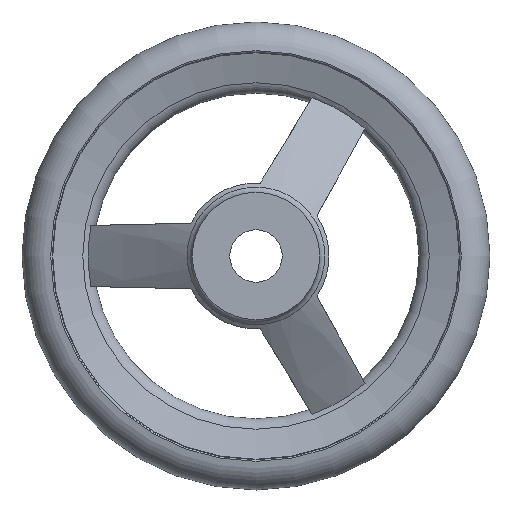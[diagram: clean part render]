
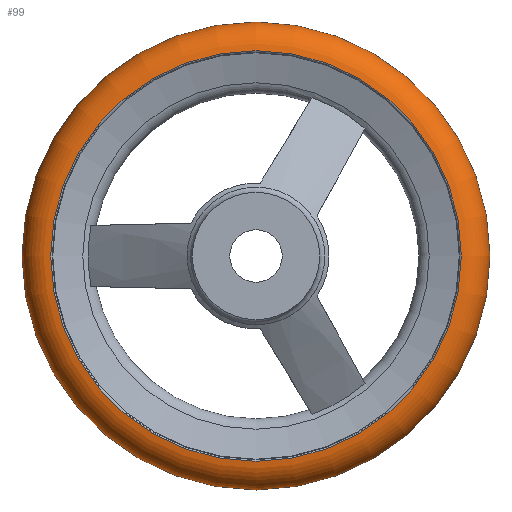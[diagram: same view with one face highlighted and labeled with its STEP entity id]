
A CAD part, left-side view. The second image highlights one B-rep face of the part: STEP entity #99.
In plain terms, the highlighted toroidal (fillet/blend) face has major radius 54.5 mm and minor radius 8 mm.
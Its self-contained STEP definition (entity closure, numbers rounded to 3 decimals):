
#99 = ADVANCED_FACE( '', ( #170, #171, #172 ), #173, .T. );
#170 = FACE_BOUND( '', #255, .T. );
#171 = FACE_OUTER_BOUND( '', #256, .T. );
#172 = FACE_OUTER_BOUND( '', #257, .T. );
#173 = TOROIDAL_SURFACE( '', #258, 54.5, 8. );
#255 = VERTEX_LOOP( '', #461 );
#256 = EDGE_LOOP( '', ( #462 ) );
#257 = EDGE_LOOP( '', ( #463 ) );
#258 = AXIS2_PLACEMENT_3D( '', #464, #465, #466 );
#461 = VERTEX_POINT( '', #555 );
#462 = ORIENTED_EDGE( '', *, *, #556, .T. );
#463 = ORIENTED_EDGE( '', *, *, #544, .F. );
#464 = CARTESIAN_POINT( '', ( 36., 0., 0. ) );
#465 = DIRECTION( '', ( -1., 0., 0. ) );
#466 = DIRECTION( '', ( 0., -1., 0. ) );
#544 = EDGE_CURVE( '', #644, #644, #645, .T. );
#555 = CARTESIAN_POINT( '', ( 36., -62.5, 0. ) );
#556 = EDGE_CURVE( '', #662, #662, #663, .T. );
#644 = VERTEX_POINT( '', #981 );
#645 = CIRCLE( '', #982, 54.833 );
#662 = VERTEX_POINT( '', #1019 );
#663 = CIRCLE( '', #1020, 54.833 );
#981 = CARTESIAN_POINT( '', ( 28.007, -54.833, 0. ) );
#982 = AXIS2_PLACEMENT_3D( '', #1096, #1097, #1098 );
#1019 = CARTESIAN_POINT( '', ( 43.993, -54.833, 0. ) );
#1020 = AXIS2_PLACEMENT_3D( '', #1119, #1120, #1121 );
#1096 = CARTESIAN_POINT( '', ( 28.007, 0., 0. ) );
#1097 = DIRECTION( '', ( -1., 0., 0. ) );
#1098 = DIRECTION( '', ( 0., -1., 0. ) );
#1119 = CARTESIAN_POINT( '', ( 43.993, 0., 0. ) );
#1120 = DIRECTION( '', ( -1., 0., 0. ) );
#1121 = DIRECTION( '', ( 0., -1., 0. ) );
